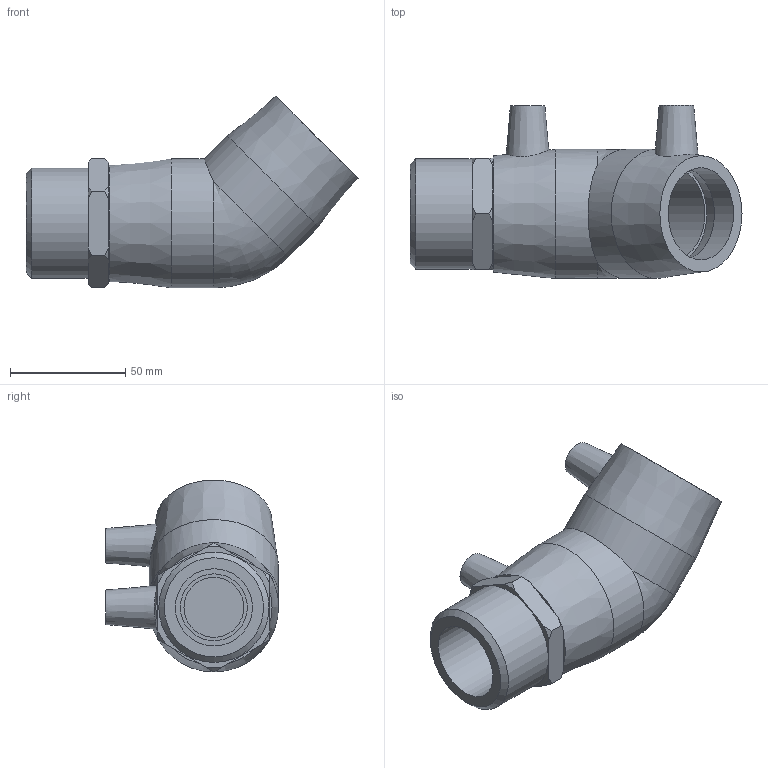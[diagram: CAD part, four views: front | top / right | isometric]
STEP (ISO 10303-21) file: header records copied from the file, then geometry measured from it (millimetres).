
FILE_DESCRIPTION(/* description */ ('PLASSON 45° ELBOW TRANSITION MALE 40-1.1/2"'),/* implementation_level */ '2;1');
FILE_NAME(/* name */ 'C:\Dropbox\KIMPROJECTS-Inventor\99-16-3568-Processing\ElectroFusion Fittings\02.02.20\492604\492604040015.ipt.stp',/* time_stamp */ '2020-02-02T12:19:59+02:00',/* author */ ('KIM'),/* organization */ (''),/* preprocessor_version */ 'ST-DEVELOPER v15.6',/* originating_system */ 'Autodesk Inventor 2015',/* authorisation */ '');
FILE_SCHEMA (('AUTOMOTIVE_DESIGN { 1 0 10303 214 3 1 1 }'));
Length unit declared in the file: millimetre
Products named in the file (1): 492604040015
Bounding box: 144 x 75 x 83.17 mm (x, y, z)
Volume: 201678.8 mm3; surface area: 47422.4 mm2
Topology: 1 solids, 2 shells, 59 faces, 133 edges, 88 vertices
Faces by surface type: plane 24, cone 19, cylinder 15, bspline 1
Full cylindrical faces by diameter (mm): 4 x2, 10 x2, 26 x2, 29 x1, 33.462 x1, 40 x4, 47.803 x1, 56 x2
Entity records: 1494 total; most frequent: CARTESIAN_POINT 363, DIRECTION 236, ORIENTED_EDGE 188, AXIS2_PLACEMENT_3D 109, EDGE_LOOP 97, EDGE_CURVE 94, VERTEX_POINT 75, FACE_OUTER_BOUND 59
